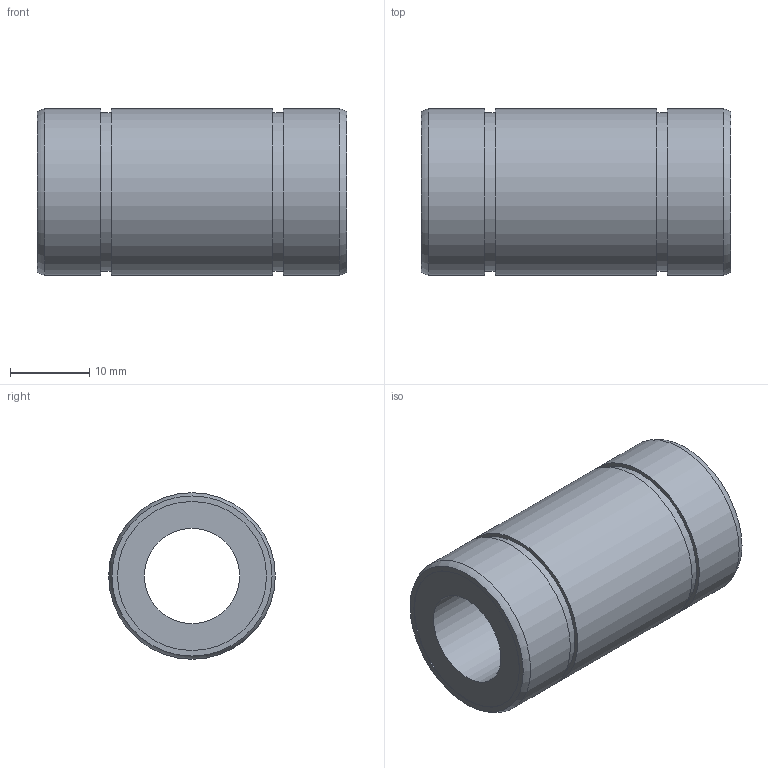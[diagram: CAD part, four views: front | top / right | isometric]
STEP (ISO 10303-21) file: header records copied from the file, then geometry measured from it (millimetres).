
FILE_DESCRIPTION((''),'2;1');
FILE_NAME('D:\製品 (図面)\カタログ用3D\メンテナンスフリー関連\STEP形式\L-MF\L12MF.stp','2010-06-01T16:12:33',('Tsuchiya'),(''),'Autodesk Inventor 10','Autodesk Inventor 10','');
FILE_SCHEMA(('AUTOMOTIVE_DESIGN { 1 0 10303 214 1 1 1 1 }'));
Length unit declared in the file: millimetre
Products named in the file (1): L12MF
Bounding box: 39 x 21 x 21 mm (x, y, z)
Volume: 8959.6 mm3; surface area: 4591.7 mm2
Topology: 1 solids, 1 shells, 18 faces, 28 edges, 18 vertices
Faces by surface type: cylinder 8, plane 8, torus 2
Full cylindrical faces by diameter (mm): 12 x1, 18.8 x2, 20 x2, 21 x3
Entity records: 391 total; most frequent: DIRECTION 74, CARTESIAN_POINT 55, AXIS2_PLACEMENT_3D 37, ORIENTED_EDGE 36, EDGE_LOOP 36, VERTEX_POINT 18, CIRCLE 18, EDGE_CURVE 18
